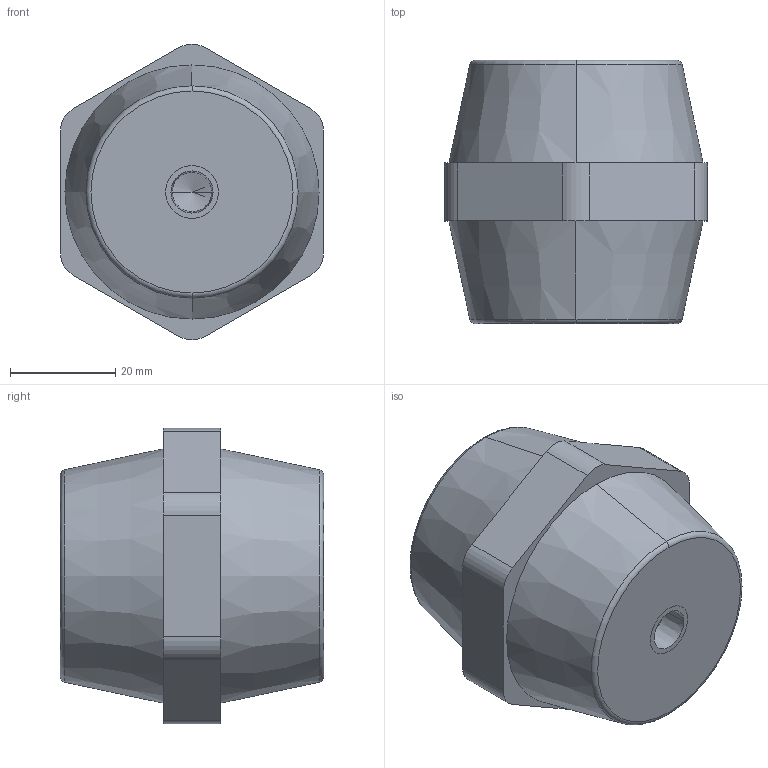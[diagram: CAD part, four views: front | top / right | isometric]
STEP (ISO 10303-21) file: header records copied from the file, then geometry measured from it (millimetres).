
FILE_DESCRIPTION (( 'STEP AP214' ), '1' );
FILE_NAME ('Isolatore 5531 50X50-M8.STEP', '2025-04-14T11:45:03', ( '' ), ( '' ), 'SwSTEP 2.0', 'SolidWorks 2020', '' );
FILE_SCHEMA (( 'AUTOMOTIVE_DESIGN' ));
Length unit declared in the file: millimetre
Products named in the file (1): Isolatore 5531 50X50-M8
Bounding box: 50 x 50 x 56.19 mm (x, y, z)
Volume: 82478.5 mm3; surface area: 13523.6 mm2
Topology: 3 solids, 3 shells, 87 faces, 191 edges, 116 vertices
Faces by surface type: cylinder 39, plane 24, cone 20, torus 4
Entity records: 2882 total; most frequent: DIRECTION 457, CARTESIAN_POINT 383, ORIENTED_EDGE 358, AXIS2_PLACEMENT_3D 190, EDGE_CURVE 179, VERTEX_POINT 116, EDGE_LOOP 105, CIRCLE 102
